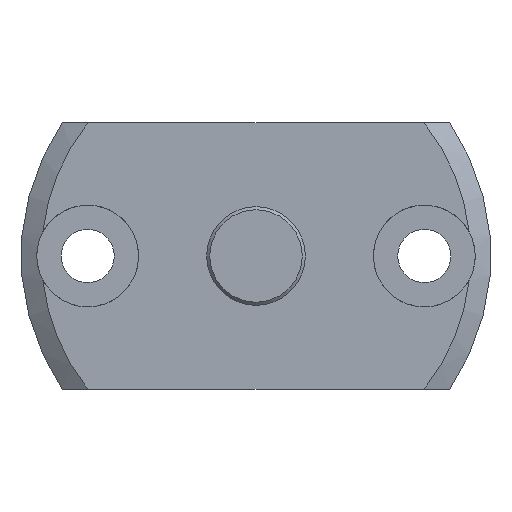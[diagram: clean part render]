
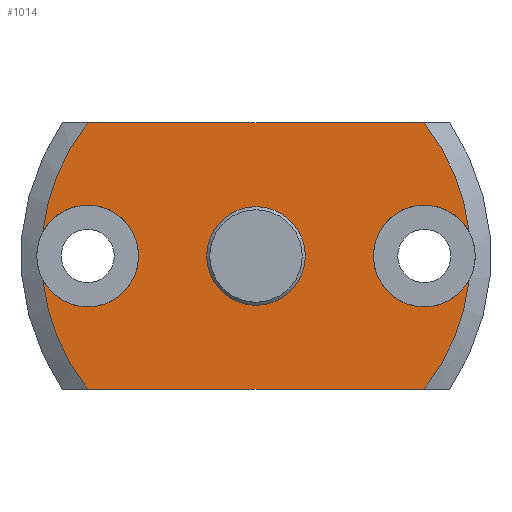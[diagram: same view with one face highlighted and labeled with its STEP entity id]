
A CAD part, left-side view. The second image highlights one B-rep face of the part: STEP entity #1014.
In plain terms, the highlighted planar face has unit normal (-1, 0, 0).
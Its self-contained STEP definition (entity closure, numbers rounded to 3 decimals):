
#38=LINE('',#1787,#88);
#39=LINE('',#1789,#89);
#88=VECTOR('',#1363,1000.);
#89=VECTOR('',#1366,1000.);
#320=ORIENTED_EDGE('',*,*,#572,.T.);
#321=ORIENTED_EDGE('',*,*,#558,.T.);
#322=ORIENTED_EDGE('',*,*,#573,.F.);
#323=ORIENTED_EDGE('',*,*,#560,.F.);
#324=ORIENTED_EDGE('',*,*,#574,.T.);
#325=ORIENTED_EDGE('',*,*,#564,.T.);
#326=ORIENTED_EDGE('',*,*,#575,.F.);
#327=ORIENTED_EDGE('',*,*,#554,.T.);
#328=ORIENTED_EDGE('',*,*,#576,.T.);
#554=EDGE_CURVE('',#680,#678,#751,.F.);
#558=EDGE_CURVE('',#679,#683,#753,.F.);
#560=EDGE_CURVE('',#684,#686,#754,.T.);
#564=EDGE_CURVE('',#685,#689,#756,.F.);
#572=EDGE_CURVE('',#678,#679,#762,.T.);
#573=EDGE_CURVE('',#686,#683,#38,.T.);
#574=EDGE_CURVE('',#684,#685,#763,.T.);
#575=EDGE_CURVE('',#680,#689,#39,.T.);
#576=EDGE_CURVE('',#697,#697,#764,.T.);
#678=VERTEX_POINT('',#1730);
#679=VERTEX_POINT('',#1731);
#680=VERTEX_POINT('',#1733);
#683=VERTEX_POINT('',#1745);
#684=VERTEX_POINT('',#1753);
#685=VERTEX_POINT('',#1754);
#686=VERTEX_POINT('',#1756);
#689=VERTEX_POINT('',#1768);
#697=VERTEX_POINT('',#1791);
#751=CIRCLE('',#1132,13.7);
#753=CIRCLE('',#1134,13.7);
#754=CIRCLE('',#1136,13.7);
#756=CIRCLE('',#1138,13.7);
#762=CIRCLE('',#1146,3.25);
#763=CIRCLE('',#1147,3.25);
#764=CIRCLE('',#1148,3.);
#818=EDGE_LOOP('',(#320,#321,#322,#323,#324,#325,#326,#327));
#819=EDGE_LOOP('',(#328));
#906=FACE_BOUND('',#818,.T.);
#907=FACE_BOUND('',#819,.T.);
#962=PLANE('',#1145);
#1014=ADVANCED_FACE('',(#906,#907),#962,.F.);
#1132=AXIS2_PLACEMENT_3D('',#1732,#1331,#1332);
#1134=AXIS2_PLACEMENT_3D('',#1746,#1335,#1336);
#1136=AXIS2_PLACEMENT_3D('',#1755,#1339,#1340);
#1138=AXIS2_PLACEMENT_3D('',#1769,#1343,#1344);
#1145=AXIS2_PLACEMENT_3D('',#1785,#1359,#1360);
#1146=AXIS2_PLACEMENT_3D('',#1786,#1361,#1362);
#1147=AXIS2_PLACEMENT_3D('',#1788,#1364,#1365);
#1148=AXIS2_PLACEMENT_3D('',#1790,#1367,#1368);
#1331=DIRECTION('',(1.,0.,0.));
#1332=DIRECTION('',(0.,0.,-1.));
#1335=DIRECTION('',(1.,0.,0.));
#1336=DIRECTION('',(0.,0.,-1.));
#1339=DIRECTION('',(1.,0.,0.));
#1340=DIRECTION('',(0.,0.,-1.));
#1343=DIRECTION('',(1.,0.,0.));
#1344=DIRECTION('',(0.,0.,-1.));
#1359=DIRECTION('',(1.,0.,0.));
#1360=DIRECTION('',(0.,0.,-1.));
#1361=DIRECTION('',(1.,0.,0.));
#1362=DIRECTION('',(0.,0.,-1.));
#1363=DIRECTION('',(0.,-1.,0.));
#1364=DIRECTION('',(1.,0.,0.));
#1365=DIRECTION('',(0.,0.,-1.));
#1366=DIRECTION('',(0.,1.,0.));
#1367=DIRECTION('',(1.,0.,0.));
#1368=DIRECTION('',(0.,0.,-1.));
#1730=CARTESIAN_POINT('',(0.,-13.613,-1.537));
#1731=CARTESIAN_POINT('',(0.,-13.613,1.537));
#1732=CARTESIAN_POINT('',(0.,0.,0.));
#1733=CARTESIAN_POINT('',(0.,-10.744,-8.5));
#1745=CARTESIAN_POINT('',(0.,-10.744,8.5));
#1746=CARTESIAN_POINT('',(0.,0.,0.));
#1753=CARTESIAN_POINT('',(0.,13.613,1.537));
#1754=CARTESIAN_POINT('',(0.,13.613,-1.537));
#1755=CARTESIAN_POINT('',(0.,0.,0.));
#1756=CARTESIAN_POINT('',(0.,10.744,8.5));
#1768=CARTESIAN_POINT('',(0.,10.744,-8.5));
#1769=CARTESIAN_POINT('',(0.,0.,0.));
#1785=CARTESIAN_POINT('',(0.,0.,0.));
#1786=CARTESIAN_POINT('',(0.,-10.75,0.));
#1787=CARTESIAN_POINT('',(0.,12.359,8.5));
#1788=CARTESIAN_POINT('',(0.,10.75,0.));
#1789=CARTESIAN_POINT('',(0.,-12.359,-8.5));
#1790=CARTESIAN_POINT('',(0.,0.,0.));
#1791=CARTESIAN_POINT('',(0.,0.,-3.));
